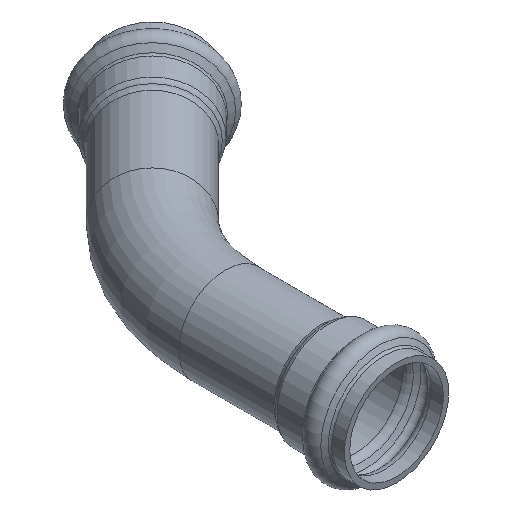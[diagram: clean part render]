
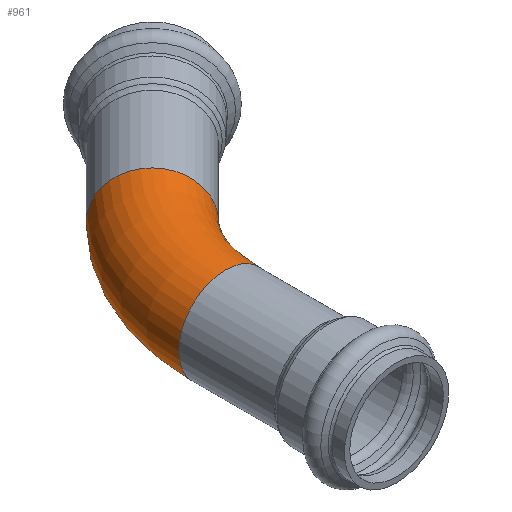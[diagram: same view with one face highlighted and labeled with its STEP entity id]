
A CAD part, isometric view. The second image highlights one B-rep face of the part: STEP entity #961.
In plain terms, the highlighted toroidal (fillet/blend) face has major radius 91.186 mm and minor radius 24.13 mm.
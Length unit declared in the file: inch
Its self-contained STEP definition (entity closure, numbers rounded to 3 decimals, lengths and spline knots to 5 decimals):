
#125=FACE_OUTER_BOUND('',#167,.T.);
#167=EDGE_LOOP('',(#651,#652,#653,#654,#655,#656));
#232=CIRCLE('',#1054,0.95);
#233=CIRCLE('',#1055,0.95);
#234=CIRCLE('',#1057,2.64);
#235=CIRCLE('',#1058,0.95);
#236=CIRCLE('',#1059,0.95);
#355=VERTEX_POINT('',#1658);
#356=VERTEX_POINT('',#1660);
#357=VERTEX_POINT('',#1664);
#358=VERTEX_POINT('',#1666);
#475=EDGE_CURVE('',#356,#355,#232,.T.);
#476=EDGE_CURVE('',#355,#356,#233,.T.);
#477=EDGE_CURVE('',#356,#357,#234,.T.);
#478=EDGE_CURVE('',#358,#357,#235,.T.);
#479=EDGE_CURVE('',#357,#358,#236,.T.);
#651=ORIENTED_EDGE('',*,*,#476,.T.);
#652=ORIENTED_EDGE('',*,*,#477,.T.);
#653=ORIENTED_EDGE('',*,*,#478,.F.);
#654=ORIENTED_EDGE('',*,*,#479,.F.);
#655=ORIENTED_EDGE('',*,*,#477,.F.);
#656=ORIENTED_EDGE('',*,*,#475,.T.);
#894=TOROIDAL_SURFACE('',#1056,3.59,0.95);
#961=ADVANCED_FACE('',(#125),#894,.T.);
#1054=AXIS2_PLACEMENT_3D('',#1661,#1285,#1286);
#1055=AXIS2_PLACEMENT_3D('',#1662,#1287,#1288);
#1056=AXIS2_PLACEMENT_3D('',#1663,#1289,#1290);
#1057=AXIS2_PLACEMENT_3D('',#1665,#1291,#1292);
#1058=AXIS2_PLACEMENT_3D('',#1667,#1293,#1294);
#1059=AXIS2_PLACEMENT_3D('',#1668,#1295,#1296);
#1285=DIRECTION('center_axis',(0.,1.,0.));
#1286=DIRECTION('ref_axis',(1.,0.,0.));
#1287=DIRECTION('center_axis',(0.,1.,0.));
#1288=DIRECTION('ref_axis',(1.,0.,0.));
#1289=DIRECTION('center_axis',(0.,0.,1.));
#1290=DIRECTION('ref_axis',(1.,0.,0.));
#1291=DIRECTION('center_axis',(0.,0.,-1.));
#1292=DIRECTION('ref_axis',(1.,0.,0.));
#1293=DIRECTION('center_axis',(0.707,0.707,0.));
#1294=DIRECTION('ref_axis',(0.707,-0.707,0.));
#1295=DIRECTION('center_axis',(0.707,0.707,0.));
#1296=DIRECTION('ref_axis',(0.707,-0.707,0.));
#1658=CARTESIAN_POINT('',(-0.95,-1.48703,0.));
#1660=CARTESIAN_POINT('',(0.95,-1.48703,0.));
#1661=CARTESIAN_POINT('Origin',(0.,-1.48703,
0.));
#1662=CARTESIAN_POINT('Origin',(0.,-1.48703,
0.));
#1663=CARTESIAN_POINT('Origin',(3.59,-1.48703,0.));
#1664=CARTESIAN_POINT('',(1.72324,0.37974,0.));
#1665=CARTESIAN_POINT('Origin',(3.59,-1.48703,0.));
#1666=CARTESIAN_POINT('',(0.37974,1.72324,0.));
#1667=CARTESIAN_POINT('Origin',(1.05149,1.05149,0.));
#1668=CARTESIAN_POINT('Origin',(1.05149,1.05149,0.));
